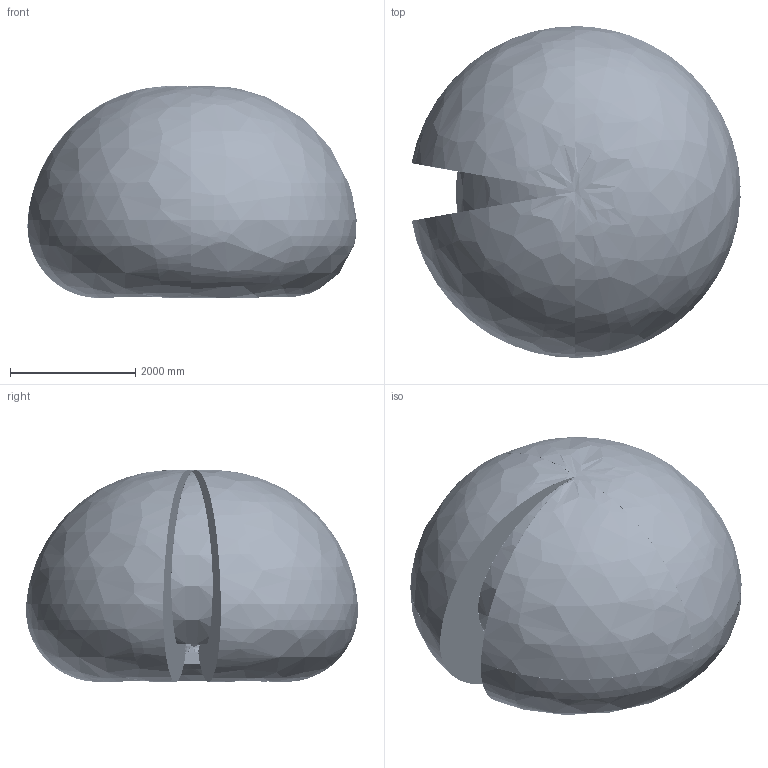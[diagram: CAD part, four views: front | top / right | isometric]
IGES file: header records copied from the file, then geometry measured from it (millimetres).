
Start section: SolidWorks IGES file using analytic representation for surfaces
Global section: file name: C:\DATA\SAP_DOC\LW\IRB 6720\IRB6720-LID-MH_215kg-265_OC_01_SW_J\export\IRB6720-LID-MH_215kg-265_OC_01_IGES_J\IRB6720-LID-MH_215kg-265_OC_01_ASM_CAD.igs; native system: SolidWorks 2024; preprocessor: SolidWorks 2024; author: SEJOVAS3; date: 260526.094124; units: millimetre
Bounding box: 5254.69 x 5300.59 x 3381.71 mm (x, y, z)
Surface area: 103159827 mm2 (no closed solid volume)
Topology: 0 solids, 0 shells, 9475 faces, 148436 edges, 148259 vertices
Faces by surface type: bspline 5586, revolution 3889
